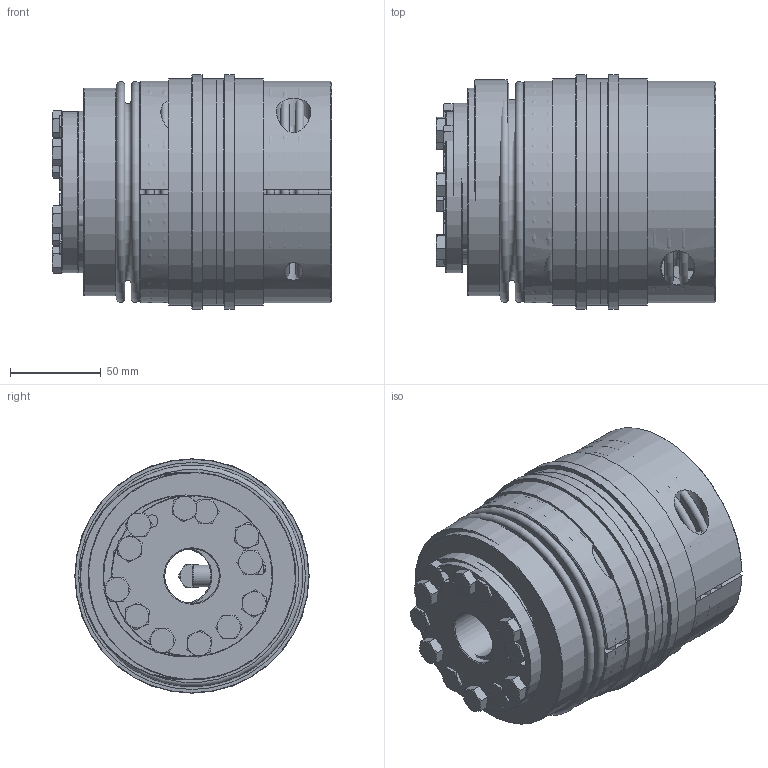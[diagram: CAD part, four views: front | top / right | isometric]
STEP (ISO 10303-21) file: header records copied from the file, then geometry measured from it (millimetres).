
FILE_DESCRIPTION( ( 'Unknown' ), '1' );
FILE_NAME( 'C:/Dokumente und Einstellungen/SKarpstein/Desktop/Korrigierte 3D Modelle/KBK-B-IK/KBK-BIK-500-147.stp', 'Unknown', ( 'Unknown' ), ( 'Unknown' ), 'XStep 1.0', 'Unknown', ' ' );
FILE_SCHEMA( ( 'automotive_design' ) );
Length unit declared in the file: millimetre
Products named in the file (13): Assem1; Assem2; Assem3; Zylinderschraube DIN 912_3_0_0; Hex Screw GradeC_ISO_ISO 4018 - M8 x 35-NN_2; BA500_Standard_2; KB500_Standard_2; Stellring 500_0; Druckring 500_0; KBK L-K-500 Grundkörper_0; Klemmnabe 500_0; Flansch BK500; BK500_Standard_0
Bounding box: 153.95 x 129 x 129 mm (x, y, z)
Surface area: 685828 mm2
Topology: 34 solids, 34 shells, 610 faces, 1287 edges, 826 vertices
Faces by surface type: plane 255, cone 174, cylinder 149, torus 32
Full cylindrical faces by diameter (mm): 3.242 x6, 5.1 x6, 5.2 x6, 6.8 x27, 8 x13, 9 x18, 10.106 x2, 12 x3, 12.5 x2, 18 x3, 19 x2, 30 x3, 35 x2, 62 x2, 62.6 x3, 65 x4, 70 x2, 80 x2, 86 x4, 89 x3, 90 x2, 93 x3, 104.5 x2, 107.7 x4, 108.9 x4, 113 x2, 114 x2, 114.5 x3, 125 x4, 129 x2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
Entity records: 5258 total; most frequent: CARTESIAN_POINT 1272, DIRECTION 814, ORIENTED_EDGE 516, AXIS2_PLACEMENT_3D 384, EDGE_LOOP 374, EDGE_CURVE 258, FACE_OUTER_BOUND 256, VERTEX_POINT 226
